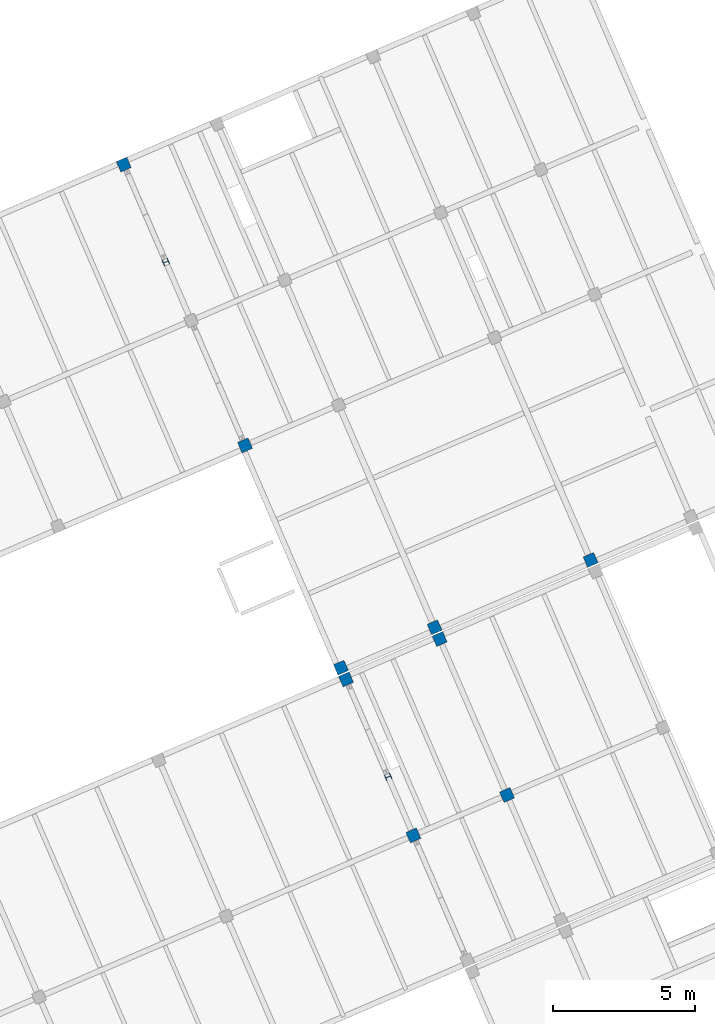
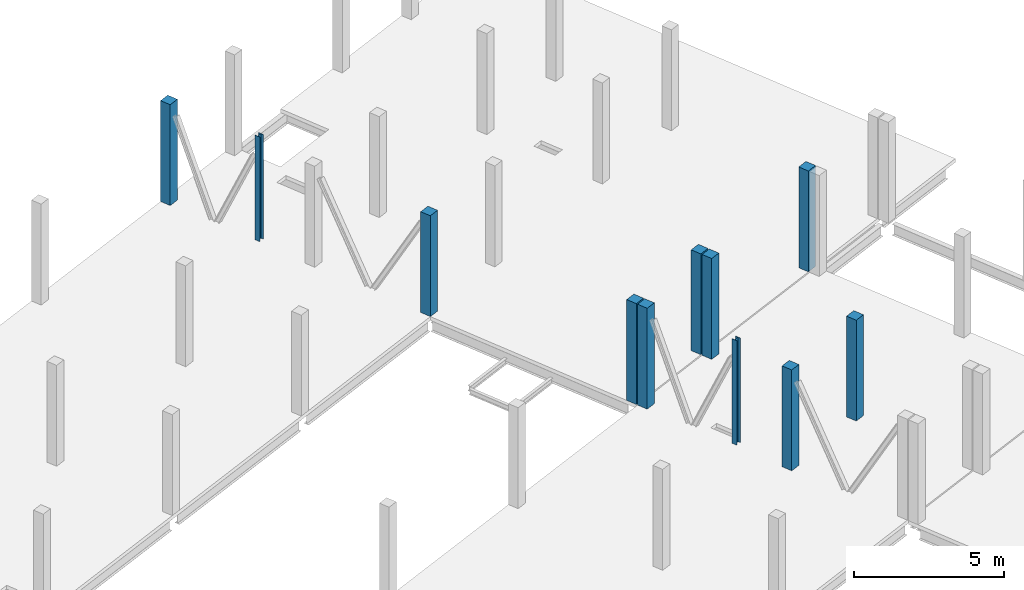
# One storey, part 5 of 24: 11 columns.
"""IFC4 building model written with IfcOpenShell, lengths in metres."""

from ifc_helpers import new_model, entity, si_unit, converted_unit, derived_unit, direction, frame, origin, place, context, subcontext, project, spatial, line, arc, indexed_curve, outline, extrude, source, transform, mapped, material, type_object, type_shapes, element, save


model = new_model("IFC4")

# Units and contexts
model_context = context("Model", 3, precision=1e-05, world=origin(), true_north=direction((6.12323399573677e-17, 1.0)))
body_context = subcontext(model_context, "Body", "Model", "MODEL_VIEW")
ifc_project = project(units=[si_unit("LENGTHUNIT", "METRE"), si_unit("AREAUNIT", "SQUARE_METRE"), si_unit("VOLUMEUNIT", "CUBIC_METRE"), converted_unit("PLANEANGLEUNIT", "DEGREE", entity("IfcPlaneAngleMeasure", 0.0174532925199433), si_unit("PLANEANGLEUNIT", "RADIAN"), dimensions=[0, 0, 0, 0, 0, 0, 0]), si_unit("MASSUNIT", "GRAM", prefix="KILO"), derived_unit("MOMENTOFINERTIAUNIT", [(si_unit("LENGTHUNIT", "METRE"), 4)]), derived_unit("LINEARFORCEUNIT", [(si_unit("MASSUNIT", "GRAM", prefix="KILO"), 1), (si_unit("TIMEUNIT", "SECOND"), -2)]), derived_unit("WARPINGCONSTANTUNIT", [(si_unit("LENGTHUNIT", "METRE"), 6)]), derived_unit("THERMALTRANSMITTANCEUNIT", [(si_unit("MASSUNIT", "GRAM", prefix="KILO"), 1), (si_unit("THERMODYNAMICTEMPERATUREUNIT", "KELVIN"), -1), (si_unit("TIMEUNIT", "SECOND"), -3)]), derived_unit("USERDEFINED", [(si_unit("MASSUNIT", "GRAM", prefix="KILO"), 1), (si_unit("TIMEUNIT", "SECOND"), -2), (si_unit("THERMODYNAMICTEMPERATUREUNIT", "KELVIN"), -1)]), derived_unit("THERMALRESISTANCEUNIT", [(si_unit("MASSUNIT", "GRAM", prefix="KILO"), -1), (si_unit("TIMEUNIT", "SECOND"), 3), (si_unit("THERMODYNAMICTEMPERATUREUNIT", "KELVIN"), 1)])], contexts=[model_context])

# Site, building, storey
site_placement = place(None, origin())
site = spatial("IfcSite", under=ifc_project, at=site_placement, Name="Default", CompositionType="ELEMENT")
building_placement = place(site_placement, frame((12.6613425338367, -82.5732315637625, 317.15), z_axis=(0.0, 0.0, 1.0), x_axis=(-0.396377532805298, 0.918087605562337, 0.0)))
building = spatial("IfcBuilding", under=site, at=building_placement, Name="CESFAM Coyhaique", CompositionType="ELEMENT")
storey_placement = place(building_placement, frame((0.0, 0.0, 4.20000000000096)))
storey = spatial("IfcBuildingStorey", under=building, at=storey_placement, Name="Nivel 2", CompositionType="ELEMENT", Elevation=4.20000000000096)

# Columns
ifc_material_1 = material(Name="HA")
column_type_1 = type_object("IfcColumnType", Name="M_Concrete-Square-Column:400 x 400mm", PredefinedType="COLUMN", material=ifc_material_1)
shared_shape_1 = source(origin(), body_context, "Body", "SweptSolid", [
    extrude(outline(indexed_curve([(-0.199999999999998, -0.2), (0.200000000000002, -0.2), (0.200000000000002, 0.2), (-0.199999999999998, 0.2), (-0.199999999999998, -0.2)], self_intersect=False)), frame((28.7688534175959, -11.5971495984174, 4.20000000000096), z_axis=(0.0, 0.0, 1.0), x_axis=(-1.0, 0.0, 0.0)), (0.0, 0.0, 1.0), 4.10000000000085),
])
type_shapes(column_type_1, [shared_shape_1])
column_1_placement = place(storey_placement, frame((0.0, 0.0, -4.20000000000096)))
element("IfcColumn", 1, at=column_1_placement, inside=storey, type_object=column_type_1, Name="M_Concrete-Square-Column:400 x 400mm", ObjectType="M_Concrete-Square-Column:400 x 400mm", PredefinedType="COLUMN", context=body_context, shape_type="MappedRepresentation", body=[
    mapped(shared_shape_1, transform((0.0, 0.0, 0.0), scale=1.0)),
])
column_type_2 = type_object("IfcColumnType", Name="M_Concrete-Square-Column:400 x 400mm", PredefinedType="COLUMN", material=ifc_material_1)
shared_shape_2 = source(origin(), body_context, "Body", "SweptSolid", [
    extrude(outline(indexed_curve([(-0.199999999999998, -0.2), (0.200000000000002, -0.2), (0.200000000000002, 0.2), (-0.199999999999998, 0.2), (-0.199999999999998, -0.2)], self_intersect=False)), frame((34.768853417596, -11.5971495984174, 4.20000000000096), z_axis=(0.0, 0.0, 1.0), x_axis=(-1.0, 0.0, 0.0)), (0.0, 0.0, 1.0), 4.10000000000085),
])
type_shapes(column_type_2, [shared_shape_2])
column_2_placement = place(storey_placement, frame((0.0, 0.0, -4.20000000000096)))
element("IfcColumn", 2, at=column_2_placement, inside=storey, type_object=column_type_2, Name="M_Concrete-Square-Column:400 x 400mm", ObjectType="M_Concrete-Square-Column:400 x 400mm", PredefinedType="COLUMN", context=body_context, shape_type="MappedRepresentation", body=[
    mapped(shared_shape_2, transform((0.0, 0.0, 0.0), scale=1.0)),
])
column_type_3 = type_object("IfcColumnType", Name="M_Concrete-Square-Column:400 x 400mm", PredefinedType="COLUMN", material=ifc_material_1)
shared_shape_3 = source(origin(), body_context, "Body", "SweptSolid", [
    extrude(outline(indexed_curve([(-0.199999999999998, -0.2), (0.199999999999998, -0.2), (0.199999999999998, 0.2), (-0.199999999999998, 0.2), (-0.199999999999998, -0.2)], self_intersect=False)), frame((43.7688534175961, -11.5971495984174, 4.20000000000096), z_axis=(0.0, 0.0, 1.0), x_axis=(-1.0, 0.0, 0.0)), (0.0, 0.0, 1.0), 4.10000000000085),
])
type_shapes(column_type_3, [shared_shape_3])
column_3_placement = place(storey_placement, frame((0.0, 0.0, -4.20000000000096)))
element("IfcColumn", 3, at=column_3_placement, inside=storey, type_object=column_type_3, Name="M_Concrete-Square-Column:400 x 400mm", ObjectType="M_Concrete-Square-Column:400 x 400mm", PredefinedType="COLUMN", context=body_context, shape_type="MappedRepresentation", body=[
    mapped(shared_shape_3, transform((0.0, 0.0, 0.0), scale=1.0)),
])
column_type_4 = type_object("IfcColumnType", Name="M_Concrete-Square-Column:400 x 400mm", PredefinedType="COLUMN", material=ifc_material_1)
shared_shape_4 = source(origin(), body_context, "Body", "SweptSolid", [
    extrude(outline(indexed_curve([(-0.199999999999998, -0.2), (0.199999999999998, -0.2), (0.199999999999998, 0.2), (-0.199999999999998, 0.2), (-0.199999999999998, -0.2)], self_intersect=False)), frame((54.5688534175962, -11.5971495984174, 4.20000000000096), z_axis=(0.0, 0.0, 1.0), x_axis=(-1.0, 0.0, 0.0)), (0.0, 0.0, 1.0), 4.10000000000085),
])
type_shapes(column_type_4, [shared_shape_4])
column_4_placement = place(storey_placement, frame((0.0, 0.0, -4.20000000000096)))
element("IfcColumn", 4, at=column_4_placement, inside=storey, type_object=column_type_4, Name="M_Concrete-Square-Column:400 x 400mm", ObjectType="M_Concrete-Square-Column:400 x 400mm", PredefinedType="COLUMN", context=body_context, shape_type="MappedRepresentation", body=[
    mapped(shared_shape_4, transform((0.0, 0.0, 0.0), scale=1.0)),
])
column_type_5 = type_object("IfcColumnType", Name="M_Concrete-Square-Column:400 x 400mm", PredefinedType="COLUMN", material=ifc_material_1)
shared_shape_5 = source(origin(), body_context, "Body", "SweptSolid", [
    extrude(outline(indexed_curve([(-0.200000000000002, -0.2), (0.199999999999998, -0.2), (0.199999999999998, 0.2), (-0.200000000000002, 0.2), (-0.200000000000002, -0.2)], self_intersect=False)), frame((28.7688534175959, -15.1971495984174, 4.20000000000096), z_axis=(0.0, 0.0, 1.0), x_axis=(-1.0, 0.0, 0.0)), (0.0, 0.0, 1.0), 4.10000000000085),
])
type_shapes(column_type_5, [shared_shape_5])
column_5_placement = place(storey_placement, frame((0.0, 0.0, -4.20000000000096)))
element("IfcColumn", 5, at=column_5_placement, inside=storey, type_object=column_type_5, Name="M_Concrete-Square-Column:400 x 400mm", ObjectType="M_Concrete-Square-Column:400 x 400mm", PredefinedType="COLUMN", context=body_context, shape_type="MappedRepresentation", body=[
    mapped(shared_shape_5, transform((0.0, 0.0, 0.0), scale=1.0)),
])
column_type_6 = type_object("IfcColumnType", Name="M_Concrete-Square-Column:400 x 400mm", PredefinedType="COLUMN", material=ifc_material_1)
shared_shape_6 = source(origin(), body_context, "Body", "SweptSolid", [
    extrude(outline(indexed_curve([(-0.199999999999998, -0.2), (0.200000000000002, -0.2), (0.200000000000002, 0.2), (-0.199999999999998, 0.2), (-0.199999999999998, -0.2)], self_intersect=False)), frame((34.768853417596, -15.1971495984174, 4.20000000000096), z_axis=(0.0, 0.0, 1.0), x_axis=(-1.0, 0.0, 0.0)), (0.0, 0.0, 1.0), 4.10000000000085),
])
type_shapes(column_type_6, [shared_shape_6])
column_6_placement = place(storey_placement, frame((0.0, 0.0, -4.20000000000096)))
element("IfcColumn", 6, at=column_6_placement, inside=storey, type_object=column_type_6, Name="M_Concrete-Square-Column:400 x 400mm", ObjectType="M_Concrete-Square-Column:400 x 400mm", PredefinedType="COLUMN", context=body_context, shape_type="MappedRepresentation", body=[
    mapped(shared_shape_6, transform((0.0, 0.0, 0.0), scale=1.0)),
])
column_type_7 = type_object("IfcColumnType", Name="M_Concrete-Square-Column:400 x 400mm", PredefinedType="COLUMN", material=ifc_material_1)
shared_shape_7 = source(origin(), body_context, "Body", "SweptSolid", [
    extrude(outline(indexed_curve([(-0.200000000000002, -0.2), (0.199999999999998, -0.2), (0.199999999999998, 0.2), (-0.200000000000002, 0.2), (-0.200000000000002, -0.2)], self_intersect=False)), frame((35.2188534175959, -11.5971495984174, 4.20000000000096), z_axis=(0.0, 0.0, 1.0), x_axis=(-1.0, 0.0, 0.0)), (0.0, 0.0, 1.0), 4.10000000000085),
])
type_shapes(column_type_7, [shared_shape_7])
column_7_placement = place(storey_placement, frame((0.0, 0.0, -4.20000000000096)))
element("IfcColumn", 7, at=column_7_placement, inside=storey, type_object=column_type_7, Name="M_Concrete-Square-Column:400 x 400mm", ObjectType="M_Concrete-Square-Column:400 x 400mm", PredefinedType="COLUMN", context=body_context, shape_type="MappedRepresentation", body=[
    mapped(shared_shape_7, transform((0.0, 0.0, 0.0), scale=1.0)),
])
column_type_8 = type_object("IfcColumnType", Name="M_Concrete-Square-Column:400 x 400mm", PredefinedType="COLUMN", material=ifc_material_1)
shared_shape_8 = source(origin(), body_context, "Body", "SweptSolid", [
    extrude(outline(indexed_curve([(-0.200000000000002, -0.199999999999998), (0.199999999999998, -0.199999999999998), (0.199999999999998, 0.200000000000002), (-0.200000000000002, 0.200000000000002), (-0.200000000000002, -0.199999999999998)], self_intersect=False)), frame((35.2188534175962, -21.197149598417, 4.20000000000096), z_axis=(0.0, 0.0, 1.0), x_axis=(-1.0, 0.0, 0.0)), (0.0, 0.0, 1.0), 4.10000000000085),
])
type_shapes(column_type_8, [shared_shape_8])
column_8_placement = place(storey_placement, frame((0.0, 0.0, -4.20000000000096)))
element("IfcColumn", 8, at=column_8_placement, inside=storey, type_object=column_type_8, Name="M_Concrete-Square-Column:400 x 400mm", ObjectType="M_Concrete-Square-Column:400 x 400mm", PredefinedType="COLUMN", context=body_context, shape_type="MappedRepresentation", body=[
    mapped(shared_shape_8, transform((0.0, 0.0, 0.0), scale=1.0)),
])
column_type_9 = type_object("IfcColumnType", Name="M_Concrete-Square-Column:400 x 400mm", PredefinedType="COLUMN", material=ifc_material_1)
shared_shape_9 = source(origin(), body_context, "Body", "SweptSolid", [
    extrude(outline(indexed_curve([(-0.200000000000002, -0.2), (0.199999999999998, -0.2), (0.199999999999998, 0.2), (-0.200000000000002, 0.2), (-0.200000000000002, -0.2)], self_intersect=False)), frame((35.2188534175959, -15.1971495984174, 4.20000000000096), z_axis=(0.0, 0.0, 1.0), x_axis=(-1.0, 0.0, 0.0)), (0.0, 0.0, 1.0), 4.10000000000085),
])
type_shapes(column_type_9, [shared_shape_9])
column_9_placement = place(storey_placement, frame((0.0, 0.0, -4.20000000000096)))
element("IfcColumn", 9, at=column_9_placement, inside=storey, type_object=column_type_9, Name="M_Concrete-Square-Column:400 x 400mm", ObjectType="M_Concrete-Square-Column:400 x 400mm", PredefinedType="COLUMN", context=body_context, shape_type="MappedRepresentation", body=[
    mapped(shared_shape_9, transform((0.0, 0.0, 0.0), scale=1.0)),
])
ifc_material_2 = material(Name="Steel, 45-345", Category="Metal")
column_type_10 = type_object("IfcColumnType", Name="M_W Shapes-Column:HEA 200", PredefinedType="COLUMN", material=ifc_material_2)
shared_shape_10 = source(origin(), body_context, "Body", "SweptSolid", [
    extrude(outline(indexed_curve([(-0.0999999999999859, -0.0999999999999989), (0.100000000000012, -0.0999999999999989), (0.100000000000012, -0.0889999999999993), (0.0163850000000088, -0.0889999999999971), (0.00740474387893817, -0.0852802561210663), (0.00368500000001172, -0.0762999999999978), (0.00368500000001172, 0.0763000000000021), (0.00740474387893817, 0.0852802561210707), (0.0163850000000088, 0.0890000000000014), (0.100000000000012, 0.0890000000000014), (0.100000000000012, 0.100000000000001), (-0.0999999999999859, 0.100000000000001), (-0.0999999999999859, 0.0890000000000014), (-0.0163849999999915, 0.0890000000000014), (-0.00740474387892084, 0.0852802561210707), (-0.00368499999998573, 0.0763000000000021), (-0.0036849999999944, -0.0762999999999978), (-0.00740474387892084, -0.0852802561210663), (-0.0163849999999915, -0.0889999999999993), (-0.0999999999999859, -0.0889999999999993)], segments=[line(1, 2, 3, 4), arc(4, 5, 6), line(6, 7), arc(7, 8, 9), line(9, 10, 11, 12, 13, 14), arc(14, 15, 16), line(16, 17), arc(17, 18, 19), line(19, 20, 1)], self_intersect=False)), frame((50.8188534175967, -11.5971495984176, 4.20000000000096), z_axis=(0.0, 0.0, 1.0), x_axis=(-1.0, 0.0, 0.0)), (0.0, 0.0, 1.0), 4.25000000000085),
])
type_shapes(column_type_10, [shared_shape_10])
column_10_placement = place(storey_placement, frame((0.0, 0.0, -4.20000000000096)))
element("IfcColumn", 10, at=column_10_placement, inside=storey, type_object=column_type_10, Name="M_W Shapes-Column:HEA 200", ObjectType="M_W Shapes-Column:HEA 200", PredefinedType="COLUMN", context=body_context, shape_type="MappedRepresentation", body=[
    mapped(shared_shape_10, transform((0.0, 0.0, 0.0), scale=1.0)),
])
column_type_11 = type_object("IfcColumnType", Name="M_W Shapes-Column:HEA 200", PredefinedType="COLUMN", material=ifc_material_2)
shared_shape_11 = source(origin(), body_context, "Body", "SweptSolid", [
    extrude(outline(indexed_curve([(-0.0999999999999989, -0.0999999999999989), (0.0999999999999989, -0.0999999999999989), (0.0999999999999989, -0.0889999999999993), (0.0163850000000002, -0.0889999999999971), (0.0074047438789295, -0.0852802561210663), (0.00368499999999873, -0.0762999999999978), (0.00368499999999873, 0.0763000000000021), (0.0074047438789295, 0.0852802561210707), (0.0163850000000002, 0.0890000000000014), (0.0999999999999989, 0.0890000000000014), (0.0999999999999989, 0.100000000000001), (-0.0999999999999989, 0.100000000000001), (-0.0999999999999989, 0.0890000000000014), (-0.0163850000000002, 0.0890000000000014), (-0.0074047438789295, 0.0852802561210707), (-0.00368500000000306, 0.0763000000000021), (-0.00368499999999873, -0.0762999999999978), (-0.0074047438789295, -0.0852802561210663), (-0.0163850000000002, -0.0889999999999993), (-0.0999999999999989, -0.0889999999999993)], segments=[line(1, 2, 3, 4), arc(4, 5, 6), line(6, 7), arc(7, 8, 9), line(9, 10, 11, 12, 13, 14), arc(14, 15, 16), line(16, 17), arc(17, 18, 19), line(19, 20, 1)], self_intersect=False)), frame((31.0188534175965, -11.5971495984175, 4.20000000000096), z_axis=(0.0, 0.0, 1.0), x_axis=(-1.0, 0.0, 0.0)), (0.0, 0.0, 1.0), 4.25000000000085),
])
type_shapes(column_type_11, [shared_shape_11])
column_11_placement = place(storey_placement, frame((0.0, 0.0, -4.20000000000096)))
element("IfcColumn", 11, at=column_11_placement, inside=storey, type_object=column_type_11, Name="M_W Shapes-Column:HEA 200", ObjectType="M_W Shapes-Column:HEA 200", PredefinedType="COLUMN", context=body_context, shape_type="MappedRepresentation", body=[
    mapped(shared_shape_11, transform((0.0, 0.0, 0.0), scale=1.0)),
])

save(model, "model.ifc")
